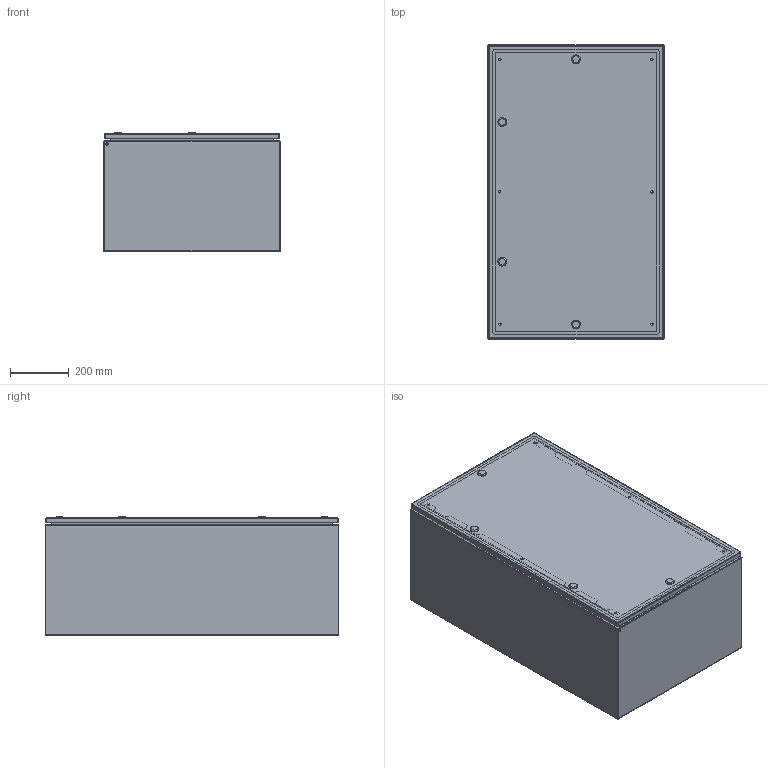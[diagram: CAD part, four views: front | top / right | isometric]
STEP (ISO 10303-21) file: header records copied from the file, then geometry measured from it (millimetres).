
FILE_DESCRIPTION (( 'STEP AP203' ), '1' );
FILE_NAME ('EC061040EE.STEP', '2023-08-31T11:58:03', ( '' ), ( '' ), 'SwSTEP 2.0', 'SolidWorks 2022', '' );
FILE_SCHEMA (( 'CONFIG_CONTROL_DESIGN' ));
Length unit declared in the file: millimetre
Products named in the file (7): AR_ECOR_X_Piastra_18; AR_EC_EE_montaggio_porta_singola_0600x1000; AR_ECOR_X_rinforzo porta_02; AR_EC_EE_porta_singola_0600x1000; EC061040EE; AR_EC_EE_chiusura_std_STD; AR_EC_EE_involucro_0600x1000x0400
Assembly tree (10 placements, depth 3):
  EC061040EE
    AR_EC_EE_involucro_0600x1000x0400
    AR_ECOR_X_Piastra_18
    AR_EC_EE_montaggio_porta_singola_0600x1000
      AR_EC_EE_porta_singola_0600x1000
      AR_EC_EE_chiusura_std_STD  x4
      AR_ECOR_X_rinforzo porta_02  x2
Bounding box: 600 x 1000 x 405 mm (x, y, z)
Volume: 5350506.3 mm3; surface area: 6398447.5 mm2
Topology: 9 solids, 9 shells, 572 faces, 1407 edges, 867 vertices
Faces by surface type: plane 290, cylinder 240, sphere 20, cone 10, torus 8, bspline 4
Full cylindrical faces by diameter (mm): 4.5 x60, 5.5 x3, 6 x7, 7 x4, 8 x11, 8.2 x5, 9.5 x4, 10 x8, 14 x4, 30 x4
Entity records: 13253 total; most frequent: CARTESIAN_POINT 2443, DIRECTION 2139, ORIENTED_EDGE 1838, EDGE_CURVE 919, AXIS2_PLACEMENT_3D 804, EDGE_LOOP 676, VERTEX_POINT 621, VECTOR 531
